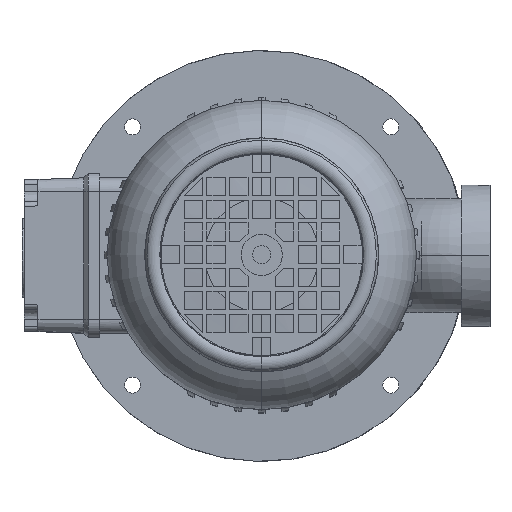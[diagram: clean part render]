
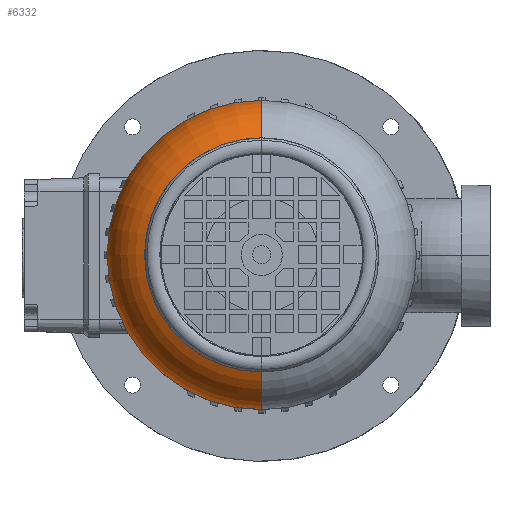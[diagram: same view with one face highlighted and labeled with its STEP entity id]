
A CAD part, top view. The second image highlights one B-rep face of the part: STEP entity #6332.
In plain terms, the highlighted toroidal (fillet/blend) face has major radius 39.75 mm and minor radius 28 mm.
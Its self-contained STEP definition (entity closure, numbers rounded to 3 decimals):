
#5942=VERTEX_POINT('',#16029);
#5946=VERTEX_POINT('',#16033);
#6332=ADVANCED_FACE('',(#16457),#16458,.T.);
#7640=EDGE_CURVE('',#5942,#12616,#17881,.T.);
#9574=EDGE_CURVE('',#12616,#9666,#20042,.T.);
#9666=VERTEX_POINT('',#20144);
#9934=EDGE_CURVE('',#9666,#5946,#20439,.T.);
#12616=VERTEX_POINT('',#23407);
#14312=EDGE_CURVE('',#5942,#5946,#25262,.T.);
#16029=CARTESIAN_POINT('',(0.,-51.25,221.529));
#16033=CARTESIAN_POINT('',(0.0,51.25,221.529));
#16457=FACE_OUTER_BOUND('',#28980,.T.);
#16458=TOROIDAL_SURFACE('',#28981,39.75,28.);
#17881=CIRCLE('',#32335,28.);
#20042=CIRCLE('',#36755,67.75);
#20144=CARTESIAN_POINT('',(0.0,67.75,196.));
#20439=CIRCLE('',#37425,28.);
#23407=CARTESIAN_POINT('',(0.,-67.75,196.));
#25262=CIRCLE('',#47818,51.25);
#28980=EDGE_LOOP('',(#51024,#51025,#51026,#51027));
#28981=AXIS2_PLACEMENT_3D('',#51028,#51029,#51030);
#32335=AXIS2_PLACEMENT_3D('',#52476,#52477,#52478);
#36755=AXIS2_PLACEMENT_3D('',#54906,#54907,#54908);
#37425=AXIS2_PLACEMENT_3D('',#55372,#55373,#55374);
#47818=AXIS2_PLACEMENT_3D('',#60623,#60624,#60625);
#51024=ORIENTED_EDGE('',*,*,#7640,.F.);
#51025=ORIENTED_EDGE('',*,*,#14312,.T.);
#51026=ORIENTED_EDGE('',*,*,#9934,.F.);
#51027=ORIENTED_EDGE('',*,*,#9574,.F.);
#51028=CARTESIAN_POINT('',(0.0,0.0,196.));
#51029=DIRECTION('',(0.0,0.0,-1.0));
#51030=DIRECTION('',(0.0,-1.0,0.0));
#52476=CARTESIAN_POINT('',(0.,-39.75,196.));
#52477=DIRECTION('',(1.0,0.,0.0));
#52478=DIRECTION('',(0.,-1.0,-0.0));
#54906=CARTESIAN_POINT('',(0.0,0.0,196.));
#54907=DIRECTION('',(0.0,0.0,-1.0));
#54908=DIRECTION('',(0.0,1.0,0.0));
#55372=CARTESIAN_POINT('',(0.,39.75,196.));
#55373=DIRECTION('',(1.0,0.,0.0));
#55374=DIRECTION('',(0.,1.0,0.0));
#60623=CARTESIAN_POINT('',(0.0,0.0,221.529));
#60624=DIRECTION('',(0.0,0.0,-1.0));
#60625=DIRECTION('',(0.0,1.0,0.0));
